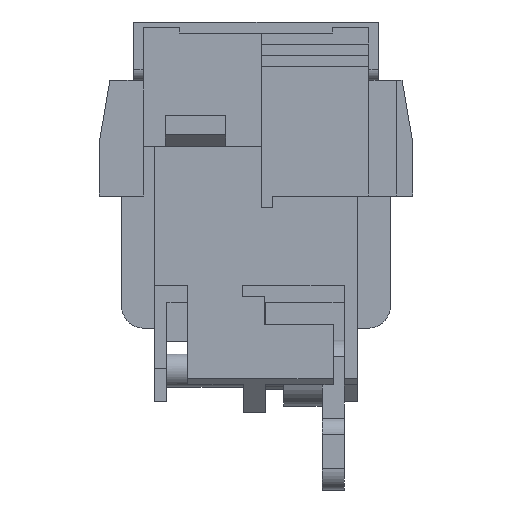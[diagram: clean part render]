
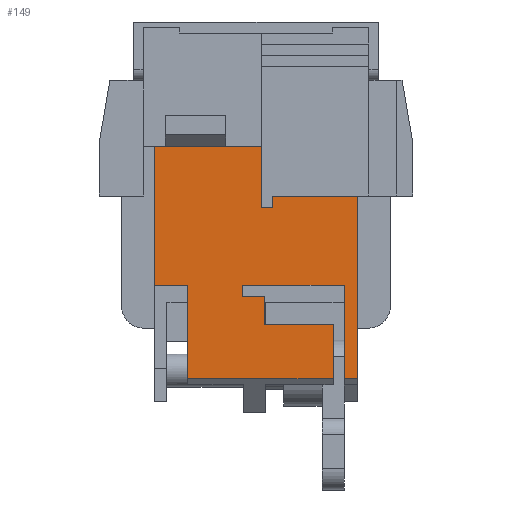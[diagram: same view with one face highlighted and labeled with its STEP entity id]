
A CAD part, left-side view. The second image highlights one B-rep face of the part: STEP entity #149.
In plain terms, the highlighted planar face has unit normal (-1, 0, 0).
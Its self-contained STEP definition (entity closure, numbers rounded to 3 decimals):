
#149=ADVANCED_FACE('',(#730),#451,.F.);
#451=PLANE('',#6253);
#730=FACE_OUTER_BOUND('',#1023,.T.);
#1023=EDGE_LOOP('',(#1376,#1377,#1378,#1379,#1380,#1381,#1382,#1383,#1384,
#1385,#1386,#1387,#1388,#1389,#1390));
#1376=ORIENTED_EDGE('',*,*,#3735,.F.);
#1377=ORIENTED_EDGE('',*,*,#3736,.F.);
#1378=ORIENTED_EDGE('',*,*,#3737,.F.);
#1379=ORIENTED_EDGE('',*,*,#3738,.F.);
#1380=ORIENTED_EDGE('',*,*,#3739,.F.);
#1381=ORIENTED_EDGE('',*,*,#3740,.F.);
#1382=ORIENTED_EDGE('',*,*,#3741,.F.);
#1383=ORIENTED_EDGE('',*,*,#3742,.F.);
#1384=ORIENTED_EDGE('',*,*,#3743,.F.);
#1385=ORIENTED_EDGE('',*,*,#3744,.F.);
#1386=ORIENTED_EDGE('',*,*,#3745,.F.);
#1387=ORIENTED_EDGE('',*,*,#3746,.T.);
#1388=ORIENTED_EDGE('',*,*,#3747,.T.);
#1389=ORIENTED_EDGE('',*,*,#3748,.T.);
#1390=ORIENTED_EDGE('',*,*,#3749,.F.);
#3156=VERTEX_POINT('',#8260);
#3157=VERTEX_POINT('',#8261);
#3158=VERTEX_POINT('',#8263);
#3159=VERTEX_POINT('',#8265);
#3160=VERTEX_POINT('',#8267);
#3161=VERTEX_POINT('',#8269);
#3162=VERTEX_POINT('',#8271);
#3163=VERTEX_POINT('',#8273);
#3164=VERTEX_POINT('',#8275);
#3165=VERTEX_POINT('',#8277);
#3166=VERTEX_POINT('',#8279);
#3167=VERTEX_POINT('',#8281);
#3168=VERTEX_POINT('',#8283);
#3169=VERTEX_POINT('',#8285);
#3170=VERTEX_POINT('',#8287);
#3735=EDGE_CURVE('',#3156,#3157,#4625,.T.);
#3736=EDGE_CURVE('',#3158,#3156,#4626,.T.);
#3737=EDGE_CURVE('',#3159,#3158,#4627,.T.);
#3738=EDGE_CURVE('',#3160,#3159,#4628,.T.);
#3739=EDGE_CURVE('',#3161,#3160,#4629,.T.);
#3740=EDGE_CURVE('',#3162,#3161,#4630,.T.);
#3741=EDGE_CURVE('',#3163,#3162,#4631,.T.);
#3742=EDGE_CURVE('',#3164,#3163,#4632,.T.);
#3743=EDGE_CURVE('',#3165,#3164,#4633,.T.);
#3744=EDGE_CURVE('',#3166,#3165,#4634,.T.);
#3745=EDGE_CURVE('',#3167,#3166,#4635,.T.);
#3746=EDGE_CURVE('',#3167,#3168,#4636,.T.);
#3747=EDGE_CURVE('',#3168,#3169,#4637,.T.);
#3748=EDGE_CURVE('',#3169,#3170,#4638,.T.);
#3749=EDGE_CURVE('',#3157,#3170,#4639,.T.);
#4625=LINE('',#8259,#5458);
#4626=LINE('',#8262,#5459);
#4627=LINE('',#8264,#5460);
#4628=LINE('',#8266,#5461);
#4629=LINE('',#8268,#5462);
#4630=LINE('',#8270,#5463);
#4631=LINE('',#8272,#5464);
#4632=LINE('',#8274,#5465);
#4633=LINE('',#8276,#5466);
#4634=LINE('',#8278,#5467);
#4635=LINE('',#8280,#5468);
#4636=LINE('',#8282,#5469);
#4637=LINE('',#8284,#5470);
#4638=LINE('',#8286,#5471);
#4639=LINE('',#8288,#5472);
#5458=VECTOR('',#6670,1.);
#5459=VECTOR('',#6671,1.);
#5460=VECTOR('',#6672,1.);
#5461=VECTOR('',#6673,1.);
#5462=VECTOR('',#6674,1.);
#5463=VECTOR('',#6675,1.);
#5464=VECTOR('',#6676,1.);
#5465=VECTOR('',#6677,1.);
#5466=VECTOR('',#6678,1.);
#5467=VECTOR('',#6679,1.);
#5468=VECTOR('',#6680,1.);
#5469=VECTOR('',#6681,1.);
#5470=VECTOR('',#6682,1.);
#5471=VECTOR('',#6683,1.);
#5472=VECTOR('',#6684,1.);
#6253=AXIS2_PLACEMENT_3D('',#8289,#6685,#6686);
#6670=DIRECTION('',(0.,1.,0.));
#6671=DIRECTION('',(0.,0.,-1.));
#6672=DIRECTION('',(0.,-1.,0.));
#6673=DIRECTION('',(0.,0.,-1.));
#6674=DIRECTION('',(0.,-1.,0.));
#6675=DIRECTION('',(0.,0.,-1.));
#6676=DIRECTION('',(0.,1.,0.));
#6677=DIRECTION('',(0.,0.,1.));
#6678=DIRECTION('',(0.,1.,0.));
#6679=DIRECTION('',(0.,0.,-1.));
#6680=DIRECTION('',(0.,-1.,0.));
#6681=DIRECTION('',(0.,0.,-1.));
#6682=DIRECTION('',(0.,0.,-1.));
#6683=DIRECTION('',(0.,-1.,0.));
#6684=DIRECTION('',(0.,0.,1.));
#6685=DIRECTION('',(1.,0.,0.));
#6686=DIRECTION('',(0.,0.,-1.));
#8259=CARTESIAN_POINT('',(-30.3,-224.2,-31.382));
#8260=CARTESIAN_POINT('',(-30.3,-222.,-31.382));
#8261=CARTESIAN_POINT('',(-30.3,-208.8,-31.382));
#8262=CARTESIAN_POINT('',(-30.3,-222.,-26.5));
#8263=CARTESIAN_POINT('',(-30.3,-222.,-26.5));
#8264=CARTESIAN_POINT('',(-30.3,-215.8,-26.5));
#8265=CARTESIAN_POINT('',(-30.3,-215.8,-26.5));
#8266=CARTESIAN_POINT('',(-30.3,-215.8,-23.9));
#8267=CARTESIAN_POINT('',(-30.3,-215.8,-23.9));
#8268=CARTESIAN_POINT('',(-30.3,-213.8,-23.9));
#8269=CARTESIAN_POINT('',(-30.3,-213.8,-23.9));
#8270=CARTESIAN_POINT('',(-30.3,-213.8,-22.9));
#8271=CARTESIAN_POINT('',(-30.3,-213.8,-22.9));
#8272=CARTESIAN_POINT('',(-30.3,-223.,-22.9));
#8273=CARTESIAN_POINT('',(-30.3,-223.,-22.9));
#8274=CARTESIAN_POINT('',(-30.3,-223.,-32.236));
#8275=CARTESIAN_POINT('',(-30.3,-223.,-31.382));
#8276=CARTESIAN_POINT('',(-30.3,-224.2,-31.382));
#8277=CARTESIAN_POINT('',(-30.3,-224.2,-31.382));
#8278=CARTESIAN_POINT('',(-30.3,-224.2,-14.8));
#8279=CARTESIAN_POINT('',(-30.3,-224.2,-1.));
#8280=CARTESIAN_POINT('',(-30.3,-205.8,-1.));
#8281=CARTESIAN_POINT('',(-30.3,-205.8,-1.));
#8282=CARTESIAN_POINT('',(-30.3,-205.8,-1.));
#8283=CARTESIAN_POINT('',(-30.3,-205.8,-10.3));
#8284=CARTESIAN_POINT('',(-30.3,-205.8,-14.8));
#8285=CARTESIAN_POINT('',(-30.3,-205.8,-22.9));
#8286=CARTESIAN_POINT('',(-30.3,-224.2,-22.9));
#8287=CARTESIAN_POINT('',(-30.3,-208.8,-22.9));
#8288=CARTESIAN_POINT('',(-30.3,-208.8,-14.8));
#8289=CARTESIAN_POINT('',(-30.3,-224.2,-14.8));
